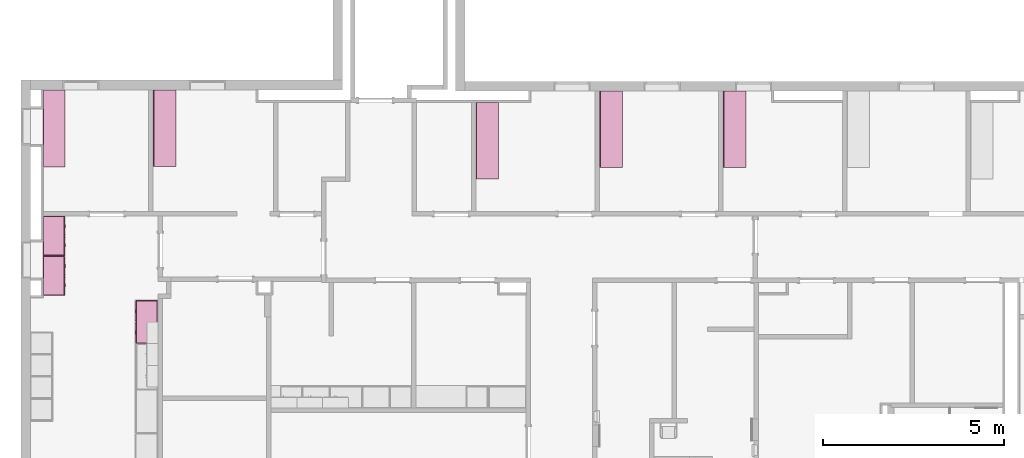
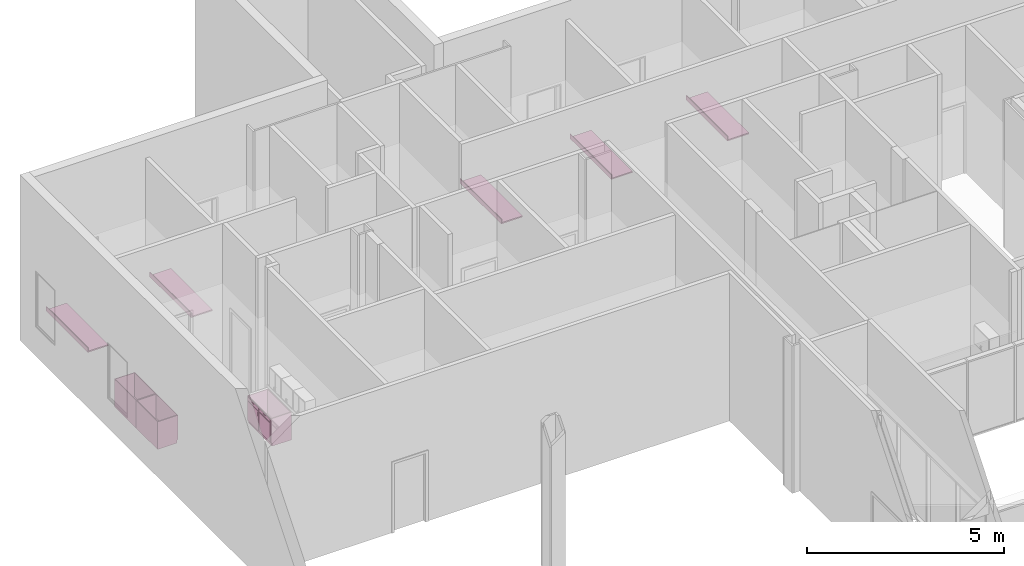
# One storey, part 42 of 45: 8 furnishings, 4 openings.
"""IFC2X3 building model written with IfcOpenShell, lengths in metres."""

from ifc_helpers import new_model, entity, si_unit, converted_unit, frame, frame_2d, origin, origin_2d_with_axis, place, context, project, spatial, polyline, circle_curve, parameter, trimmed, segment, composite_curve, rectangle, outline, extrude, face_set, surface_model, source, transform, mapped, type_object, type_shapes, element, save


model = new_model("IFC2X3")

# Units and contexts
model_context = context("Model", 3, precision=1e-09, world=origin())
plan_context = context("Plan", 3, precision=1e-09, world=origin())
ifc_project = project(units=[si_unit("LENGTHUNIT", "METRE"), si_unit("AREAUNIT", "SQUARE_METRE"), si_unit("VOLUMEUNIT", "CUBIC_METRE"), converted_unit("PLANEANGLEUNIT", "DEGREE", entity("IfcRatioMeasure", 0.01745329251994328), si_unit("PLANEANGLEUNIT", "RADIAN"), dimensions=[0, 0, 0, 0, 0, 0, 0]), si_unit("TIMEUNIT", "SECOND")], contexts=[model_context, plan_context])

# Site, building, storey, space
site_placement = place(None, origin())
site = spatial("IfcSite", under=ifc_project, at=site_placement, Name="Default", CompositionType="ELEMENT")
building_placement = place(site_placement, origin())
building = spatial("IfcBuilding", under=site, at=building_placement, CompositionType="ELEMENT")
storey_placement = place(building_placement, frame((0.0, 0.0, 4.570000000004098)))
storey = spatial("IfcBuildingStorey", under=building, at=storey_placement, Name="Second Floor", CompositionType="ELEMENT", Elevation=4.570000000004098)
space_1_placement = place(storey_placement, origin())
space_1 = spatial("IfcSpace", under=storey, at=space_1_placement, Name="2C17", CompositionType="ELEMENT", InteriorOrExteriorSpace="INTERNAL")

# Furnishing
furniture_type_1 = type_object("IfcFurnitureType", Name="1200mm", AssemblyPlace="NOTDEFINED")
shared_shape_1 = source(origin(), model_context, "Body", "SurfaceModel", [
    surface_model("IfcFaceBasedSurfaceModel", [(1.180949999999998, 0.04445000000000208, 0.86000000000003), (1.180949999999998, 0.04445000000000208, 0.09999999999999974), (0.01905000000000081, 0.04445000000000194, 0.09999999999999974), (0.01905000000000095, 0.04445000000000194, 0.86000000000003), (1.2, 0.02540000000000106, 0.8600000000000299), (0.0, 0.02540000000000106, 0.8600000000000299), (1.2, 0.02540000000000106, 0.09999999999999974), (0.0, 0.02540000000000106, 0.0999999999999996), (0.01905000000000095, 0.6063499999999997, 0.86000000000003), (0.01905000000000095, 0.6063499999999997, 0.09999999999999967), (0.01905000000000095, 0.06040000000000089, 0.09999999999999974), (0.0, 0.6254000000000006, 0.8600000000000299), (0.0, 0.6254000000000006, 0.0), (0.0, 0.06040000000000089, 0.0), (0.0, 0.06040000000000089, 0.09999999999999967), (1.180949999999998, 0.6063499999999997, 0.86000000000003), (1.180949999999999, 0.6063499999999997, 0.09999999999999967), (1.2, 0.6254000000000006, 0.8600000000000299), (1.2, 0.6254000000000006, 0.0), (1.180949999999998, 0.06040000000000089, 0.09999999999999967), (1.2, 0.06040000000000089, 0.09999999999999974), (1.2, 0.06040000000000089, 0.0), (0.3603250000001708, 0.0, 0.8155500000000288), (0.3603250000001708, 0.0, 0.8028500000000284), (0.258725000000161, 0.0, 0.8028500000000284), (0.258725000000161, 0.0, 0.8155500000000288), (0.9412750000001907, 0.0, 0.8155500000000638), (0.9412750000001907, 0.0, 0.8028500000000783), (0.8396750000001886, 0.0, 0.8028500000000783), (0.8396750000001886, 0.0, 0.8155500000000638), (0.5650750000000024, 0.0, 0.6822000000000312), (0.5650750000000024, 0.0, 0.5806000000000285), (0.5523750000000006, 0.0, 0.5806000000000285), (0.5523750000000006, 0.0, 0.6822000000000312), (0.6476249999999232, 0.0, 0.6822000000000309), (0.6476249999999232, 0.0, 0.5806000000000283), (0.6349249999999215, 0.0, 0.5806000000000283), (0.6349249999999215, 0.0, 0.6822000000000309), (0.3603250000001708, 0.01270000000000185, 0.8155500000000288), (0.3603250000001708, 0.01270000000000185, 0.8028500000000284), (0.2587250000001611, 0.01270000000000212, 0.8028500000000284), (0.2587250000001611, 0.01270000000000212, 0.8155500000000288), (0.9412750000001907, 0.01269999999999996, 0.8155500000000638), (0.9412750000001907, 0.01269999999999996, 0.8028500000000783), (0.8396750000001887, 0.01270000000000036, 0.8028500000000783), (0.8396750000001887, 0.01270000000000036, 0.8155500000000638), (0.5650750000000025, 0.01270000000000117, 0.6822000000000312), (0.5650750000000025, 0.01270000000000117, 0.5806000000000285), (0.5523750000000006, 0.01270000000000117, 0.5806000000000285), (0.5523750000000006, 0.01270000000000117, 0.6822000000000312), (0.6476249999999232, 0.0127000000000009, 0.6822000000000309), (0.6476249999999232, 0.0127000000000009, 0.5806000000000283), (0.6349249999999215, 0.0127000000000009, 0.5806000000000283), (0.6349249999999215, 0.0127000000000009, 0.6822000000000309), (0.5904749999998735, 0.01270000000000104, 0.8409500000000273), (0.5904749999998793, 0.01270000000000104, 0.7393500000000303), (0.01905000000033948, 0.0127000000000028, 0.7393500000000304), (0.01905000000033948, 0.0127000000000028, 0.8409500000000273), (1.180950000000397, 0.01269999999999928, 0.8409500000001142), (1.180950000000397, 0.01269999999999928, 0.7393500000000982), (0.6095249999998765, 0.01270000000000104, 0.7393500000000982), (0.6095249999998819, 0.01270000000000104, 0.8409500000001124), (0.5904749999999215, 0.01270000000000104, 0.7203000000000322), (0.5904749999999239, 0.01270000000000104, 0.1190499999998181), (0.01905000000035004, 0.0127000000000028, 0.1190499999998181), (0.01905000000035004, 0.0127000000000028, 0.7203000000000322), (1.180950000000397, 0.01269999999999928, 0.7203000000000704), (1.180950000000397, 0.01269999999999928, 0.1190499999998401), (0.6095249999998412, 0.01270000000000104, 0.1190499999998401), (0.6095249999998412, 0.01270000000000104, 0.7203000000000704), (0.5904749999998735, 0.02540000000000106, 0.8409500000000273), (0.5904749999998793, 0.02540000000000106, 0.7393500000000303), (0.01905000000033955, 0.02540000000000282, 0.7393500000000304), (0.01905000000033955, 0.02540000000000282, 0.8409500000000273), (1.180950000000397, 0.02539999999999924, 0.8409500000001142), (1.180950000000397, 0.02539999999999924, 0.7393500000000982), (0.6095249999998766, 0.025400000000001, 0.7393500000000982), (0.6095249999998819, 0.025400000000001, 0.8409500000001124), (0.5904749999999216, 0.02540000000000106, 0.7203000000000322), (0.5904749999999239, 0.02540000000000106, 0.1190499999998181), (0.01905000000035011, 0.02540000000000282, 0.1190499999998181), (0.01905000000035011, 0.02540000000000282, 0.7203000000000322), (1.180950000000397, 0.02539999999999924, 0.7203000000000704), (1.180950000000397, 0.02539999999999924, 0.1190499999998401), (0.6095249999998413, 0.025400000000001, 0.1190499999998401), (0.6095249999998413, 0.025400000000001, 0.7203000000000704), (1.180949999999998, 0.6063499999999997, 0.1190499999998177), (1.180949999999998, 0.04445000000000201, 0.1190499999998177), (0.01905000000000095, 0.04445000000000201, 0.1190499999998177), (0.01905000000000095, 0.6063499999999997, 0.1190499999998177), (1.180949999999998, 0.6063499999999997, 0.09999999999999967), (1.180949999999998, 0.04445000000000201, 0.09999999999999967), (0.01905000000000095, 0.04445000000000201, 0.09999999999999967)], [face_set([[[0, 1, 2, 3]], [[0, 4, 5, 3]], [[4, 6, 7, 5]], [[2, 1, 6, 7]], [[3, 8, 9, 10, 2]], [[5, 11, 8, 3]], [[7, 5, 11, 12, 13, 14]], [[2, 7, 14, 10]], [[8, 15, 16, 9]], [[11, 17, 15, 8]], [[12, 11, 17, 18]], [[1, 19, 16, 15, 0]], [[0, 15, 17, 4]], [[4, 6, 20, 21, 18, 17]], [[6, 1, 19, 20]], [[10, 9, 16, 19]], [[18, 21, 13, 12]], [[13, 14, 10, 19, 20, 21]]]), face_set([[[22, 23, 24, 25]], [[26, 27, 28, 29]], [[30, 31, 32, 33]], [[34, 35, 36, 37]], [[38, 39, 40, 41]], [[42, 43, 44, 45]], [[46, 47, 48, 49]], [[50, 51, 52, 53]], [[25, 41, 38, 22]], [[24, 40, 41, 25]], [[23, 24, 40, 39]], [[22, 23, 39, 38]], [[29, 45, 42, 26]], [[28, 44, 45, 29]], [[27, 28, 44, 43]], [[26, 27, 43, 42]], [[33, 49, 46, 30]], [[32, 48, 49, 33]], [[31, 32, 48, 47]], [[30, 31, 47, 46]], [[37, 53, 50, 34]], [[36, 52, 53, 37]], [[35, 36, 52, 51]], [[34, 35, 51, 50]]]), face_set([[[54, 55, 56, 57]], [[58, 59, 60, 61]], [[62, 63, 64, 65]], [[66, 67, 68, 69]], [[70, 71, 72, 73]], [[74, 75, 76, 77]], [[78, 79, 80, 81]], [[82, 83, 84, 85]], [[57, 73, 70, 54]], [[56, 57, 73, 72]], [[55, 56, 72, 71]], [[54, 55, 71, 70]], [[61, 77, 74, 58]], [[60, 76, 77, 61]], [[59, 60, 76, 75]], [[58, 59, 75, 74]], [[65, 81, 78, 62]], [[64, 65, 81, 80]], [[63, 64, 80, 79]], [[62, 63, 79, 78]], [[69, 85, 82, 66]], [[68, 84, 85, 69]], [[67, 68, 84, 83]], [[66, 67, 83, 82]]]), face_set([[[86, 87, 88, 89]], [[90, 91, 92, 9]], [[89, 86, 90, 9]], [[88, 89, 9, 92]], [[87, 91, 92, 88]], [[86, 87, 91, 90]]])]),
])
type_shapes(furniture_type_1, [shared_shape_1])
furnishing_1_placement = place(space_1_placement, frame((-44.23500000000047, 44.4370404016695, 0.0), z_axis=(0.0, 0.0, 1.0), x_axis=(0.0, -1.0, 0.0)))
element("IfcFurnishingElement", 1, at=furnishing_1_placement, inside=space_1, type_object=furniture_type_1, Name="M_Base Cabinet-Double Door & 2 Drawer:1200mm:1200mm", ObjectType="1200mm", context=model_context, shape_type="MappedRepresentation", body=[
    mapped(shared_shape_1, transform((0.0, 0.0, 0.0), scale=1.0)),
])

# Space
space_2_placement = place(storey_placement, origin())
space_2 = spatial("IfcSpace", under=storey, at=space_2_placement, Name="2C09", CompositionType="ELEMENT", InteriorOrExteriorSpace="INTERNAL")

# Furnishing, opening
furniture_type_2 = type_object("IfcFurnitureType", Name="600mm Depth", AssemblyPlace="NOTDEFINED")
shared_shape_2 = source(origin(), model_context, "Body", "SweptSolid", [
    extrude(outline(polyline([(-0.0605333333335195, -0.2146833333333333), (0.08106666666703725, -0.2146833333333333), (0.08106666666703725, -0.1956333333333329), (-0.02053333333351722, -0.1956333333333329), (-0.02053333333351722, 0.4103166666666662), (-0.0605333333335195, 0.4103166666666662), (-0.0605333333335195, -0.2146833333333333)])), frame((-1.200462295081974, -0.2146833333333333, 0.920533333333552), z_axis=(1.0, 0.0, 0.0), x_axis=(0.0, 0.0, 1.0)), (0.0, 0.0, 1.0), 2.10996063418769),
])
type_shapes(furniture_type_2, [shared_shape_2])
furnishing_2_placement = place(space_2_placement, frame((-34.82600000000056, 48.9849403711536, 0.0), z_axis=(0.0, 0.0, 1.0), x_axis=(0.0, 1.0, 0.0)))
furnishing_2 = element("IfcFurnishingElement", 2, at=furnishing_2_placement, inside=space_2, type_object=furniture_type_2, Name="M_Counter Top w Sink Hole:600mm Depth:600mm Depth", ObjectType="600mm Depth", context=model_context, shape_type="MappedRepresentation", body=[
    mapped(shared_shape_2, transform((0.0, 0.0, 0.0), scale=1.0)),
])
opening_1_placement = place(space_2_placement, frame((-34.82600000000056, 48.9849403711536, 0.0), z_axis=(0.0, 0.0, 1.0), x_axis=(0.0, 1.0, 0.0)))
element("IfcOpeningElement", 3, at=opening_1_placement, cuts=furnishing_2, Name="M_Counter Top w Sink Hole:600mm Depth:600mm Depth:1", ObjectType="Opening", context=model_context, shape_type="SweptSolid", body=[
    extrude(outline(composite_curve([segment(polyline([(-0.1397000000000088, -0.2017000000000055), (0.1396999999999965, -0.2017000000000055)]), True, "CONTINUOUS"), segment(trimmed(circle_curve(frame_2d((0.1396999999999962, -0.1508999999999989), x_axis=(1.0, 0.0)), 0.05080000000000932), [parameter(270.0000000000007)], [parameter(1.068666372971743e-12)], True, "PARAMETER"), True, "CONTINUOUS"), segment(polyline([(0.1905000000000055, -0.1508999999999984), (0.1905000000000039, 0.1509000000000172)]), True, "CONTINUOUS"), segment(trimmed(circle_curve(frame_2d((0.1397000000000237, 0.1509000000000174), x_axis=(1.0, 0.0)), 0.05079999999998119), [parameter(359.9999999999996)], [parameter(90.0000000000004)], True, "PARAMETER"), True, "CONTINUOUS"), segment(polyline([(0.1397000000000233, 0.2016999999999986), (-0.1397000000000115, 0.2016999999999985)]), True, "CONTINUOUS"), segment(trimmed(circle_curve(frame_2d((-0.1397000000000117, 0.1509000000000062), x_axis=(1.0, 0.0)), 0.0507999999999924), [parameter(90.00000000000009)], [parameter(179.9999999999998)], True, "PARAMETER"), True, "CONTINUOUS"), segment(polyline([(-0.1905000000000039, 0.150900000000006), (-0.1905000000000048, -0.1509000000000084)]), True, "CONTINUOUS"), segment(trimmed(circle_curve(frame_2d((-0.1397000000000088, -0.1509000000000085), x_axis=(1.0, 0.0)), 0.05079999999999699), [parameter(179.9999999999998)], [parameter(269.9999999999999)], True, "PARAMETER"), True, "CONTINUOUS")], self_intersect=False)), frame((-0.2890000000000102, 0.861511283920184, -3.670000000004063), z_axis=(0.0, 0.0, -1.0), x_axis=(0.0, -1.0, 0.0)), (0.0, 0.0, 1.0), 0.04000000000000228),
])

# Space
space_3_placement = place(storey_placement, origin())
space_3 = spatial("IfcSpace", under=storey, at=space_3_placement, Name="2C06", CompositionType="ELEMENT", InteriorOrExteriorSpace="INTERNAL")

# Furnishing, opening
furniture_type_3 = type_object("IfcFurnitureType", Name="600mm Depth", AssemblyPlace="NOTDEFINED")
type_shapes(furniture_type_3, [shared_shape_2])
furnishing_3_placement = place(space_3_placement, frame((-31.41600000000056, 49.2935016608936, 0.0), z_axis=(0.0, 0.0, 1.0), x_axis=(0.0, 1.0, 0.0)))
furnishing_3 = element("IfcFurnishingElement", 4, at=furnishing_3_placement, inside=space_3, type_object=furniture_type_3, Name="M_Counter Top w Sink Hole:600mm Depth:600mm Depth", ObjectType="600mm Depth", context=model_context, shape_type="MappedRepresentation", body=[
    mapped(shared_shape_2, transform((0.0, 0.0, 0.0), scale=1.0)),
])
opening_2_placement = place(space_3_placement, frame((-31.41600000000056, 49.2935016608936, 0.0), z_axis=(0.0, 0.0, 1.0), x_axis=(0.0, 1.0, 0.0)))
element("IfcOpeningElement", 5, at=opening_2_placement, cuts=furnishing_3, Name="M_Counter Top w Sink Hole:600mm Depth:600mm Depth:1", ObjectType="Opening", context=model_context, shape_type="SweptSolid", body=[
    extrude(outline(composite_curve([segment(polyline([(-0.1397000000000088, -0.2017000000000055), (0.1396999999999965, -0.2017000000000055)]), True, "CONTINUOUS"), segment(trimmed(circle_curve(frame_2d((0.1396999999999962, -0.1508999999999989), x_axis=(1.0, 0.0)), 0.05080000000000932), [parameter(270.0000000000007)], [parameter(1.068666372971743e-12)], True, "PARAMETER"), True, "CONTINUOUS"), segment(polyline([(0.1905000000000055, -0.1508999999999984), (0.1905000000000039, 0.1509000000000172)]), True, "CONTINUOUS"), segment(trimmed(circle_curve(frame_2d((0.1397000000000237, 0.1509000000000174), x_axis=(1.0, 0.0)), 0.05079999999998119), [parameter(359.9999999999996)], [parameter(90.0000000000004)], True, "PARAMETER"), True, "CONTINUOUS"), segment(polyline([(0.1397000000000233, 0.2016999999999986), (-0.1397000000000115, 0.2016999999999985)]), True, "CONTINUOUS"), segment(trimmed(circle_curve(frame_2d((-0.1397000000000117, 0.1509000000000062), x_axis=(1.0, 0.0)), 0.0507999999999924), [parameter(90.00000000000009)], [parameter(179.9999999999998)], True, "PARAMETER"), True, "CONTINUOUS"), segment(polyline([(-0.1905000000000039, 0.150900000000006), (-0.1905000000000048, -0.1509000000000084)]), True, "CONTINUOUS"), segment(trimmed(circle_curve(frame_2d((-0.1397000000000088, -0.1509000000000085), x_axis=(1.0, 0.0)), 0.05079999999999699), [parameter(179.9999999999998)], [parameter(269.9999999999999)], True, "PARAMETER"), True, "CONTINUOUS")], self_intersect=False)), frame((-0.2890000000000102, 0.861511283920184, -3.670000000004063), z_axis=(0.0, 0.0, -1.0), x_axis=(0.0, -1.0, 0.0)), (0.0, 0.0, 1.0), 0.04000000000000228),
])

# Space
space_4_placement = place(storey_placement, origin())
space_4 = spatial("IfcSpace", under=storey, at=space_4_placement, Name="2C14", CompositionType="ELEMENT", InteriorOrExteriorSpace="INTERNAL")

# Furnishing, opening
furniture_type_4 = type_object("IfcFurnitureType", Name="600mm Depth", AssemblyPlace="NOTDEFINED")
type_shapes(furniture_type_4, [shared_shape_2])
furnishing_4_placement = place(space_4_placement, frame((-43.73000000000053, 49.3279403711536, 0.0), z_axis=(0.0, 0.0, 1.0), x_axis=(0.0, 1.0, 0.0)))
furnishing_4 = element("IfcFurnishingElement", 6, at=furnishing_4_placement, inside=space_4, type_object=furniture_type_4, Name="M_Counter Top w Sink Hole:600mm Depth:600mm Depth", ObjectType="600mm Depth", context=model_context, shape_type="MappedRepresentation", body=[
    mapped(shared_shape_2, transform((0.0, 0.0, 0.0), scale=1.0)),
])
opening_3_placement = place(space_4_placement, frame((-43.73000000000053, 49.3279403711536, 0.0), z_axis=(0.0, 0.0, 1.0), x_axis=(0.0, 1.0, 0.0)))
element("IfcOpeningElement", 7, at=opening_3_placement, cuts=furnishing_4, Name="M_Counter Top w Sink Hole:600mm Depth:600mm Depth:1", ObjectType="Opening", context=model_context, shape_type="SweptSolid", body=[
    extrude(outline(composite_curve([segment(polyline([(-0.1397000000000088, -0.2017000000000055), (0.1396999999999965, -0.2017000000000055)]), True, "CONTINUOUS"), segment(trimmed(circle_curve(frame_2d((0.1396999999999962, -0.1508999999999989), x_axis=(1.0, 0.0)), 0.05080000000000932), [parameter(270.0000000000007)], [parameter(1.068666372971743e-12)], True, "PARAMETER"), True, "CONTINUOUS"), segment(polyline([(0.1905000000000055, -0.1508999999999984), (0.1905000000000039, 0.1509000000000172)]), True, "CONTINUOUS"), segment(trimmed(circle_curve(frame_2d((0.1397000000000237, 0.1509000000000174), x_axis=(1.0, 0.0)), 0.05079999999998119), [parameter(359.9999999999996)], [parameter(90.0000000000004)], True, "PARAMETER"), True, "CONTINUOUS"), segment(polyline([(0.1397000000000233, 0.2016999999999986), (-0.1397000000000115, 0.2016999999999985)]), True, "CONTINUOUS"), segment(trimmed(circle_curve(frame_2d((-0.1397000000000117, 0.1509000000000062), x_axis=(1.0, 0.0)), 0.0507999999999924), [parameter(90.00000000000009)], [parameter(179.9999999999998)], True, "PARAMETER"), True, "CONTINUOUS"), segment(polyline([(-0.1905000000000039, 0.150900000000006), (-0.1905000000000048, -0.1509000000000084)]), True, "CONTINUOUS"), segment(trimmed(circle_curve(frame_2d((-0.1397000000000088, -0.1509000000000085), x_axis=(1.0, 0.0)), 0.05079999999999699), [parameter(179.9999999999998)], [parameter(269.9999999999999)], True, "PARAMETER"), True, "CONTINUOUS")], self_intersect=False)), frame((-0.2890000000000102, 0.861511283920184, -3.670000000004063), z_axis=(0.0, 0.0, -1.0), x_axis=(0.0, -1.0, 0.0)), (0.0, 0.0, 1.0), 0.04000000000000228),
])

# Space
space_5_placement = place(storey_placement, origin())
space_5 = spatial("IfcSpace", under=storey, at=space_5_placement, Name="2C04", CompositionType="ELEMENT", InteriorOrExteriorSpace="INTERNAL")

# Furnishing, opening
furniture_type_5 = type_object("IfcFurnitureType", Name="600mm Depth", AssemblyPlace="NOTDEFINED")
type_shapes(furniture_type_5, [shared_shape_2])
furnishing_5_placement = place(space_5_placement, frame((-28.00600000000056, 49.29350166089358, 0.0), z_axis=(0.0, 0.0, 1.0), x_axis=(0.0, 1.0, 0.0)))
furnishing_5 = element("IfcFurnishingElement", 8, at=furnishing_5_placement, inside=space_5, type_object=furniture_type_5, Name="M_Counter Top w Sink Hole:600mm Depth:600mm Depth", ObjectType="600mm Depth", context=model_context, shape_type="MappedRepresentation", body=[
    mapped(shared_shape_2, transform((0.0, 0.0, 0.0), scale=1.0)),
])
opening_4_placement = place(space_5_placement, frame((-28.00600000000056, 49.29350166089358, 0.0), z_axis=(0.0, 0.0, 1.0), x_axis=(0.0, 1.0, 0.0)))
element("IfcOpeningElement", 9, at=opening_4_placement, cuts=furnishing_5, Name="M_Counter Top w Sink Hole:600mm Depth:600mm Depth:1", ObjectType="Opening", context=model_context, shape_type="SweptSolid", body=[
    extrude(outline(composite_curve([segment(polyline([(-0.1397000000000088, -0.2017000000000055), (0.1396999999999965, -0.2017000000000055)]), True, "CONTINUOUS"), segment(trimmed(circle_curve(frame_2d((0.1396999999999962, -0.1508999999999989), x_axis=(1.0, 0.0)), 0.05080000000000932), [parameter(270.0000000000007)], [parameter(1.068666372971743e-12)], True, "PARAMETER"), True, "CONTINUOUS"), segment(polyline([(0.1905000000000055, -0.1508999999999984), (0.1905000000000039, 0.1509000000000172)]), True, "CONTINUOUS"), segment(trimmed(circle_curve(frame_2d((0.1397000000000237, 0.1509000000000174), x_axis=(1.0, 0.0)), 0.05079999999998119), [parameter(359.9999999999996)], [parameter(90.0000000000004)], True, "PARAMETER"), True, "CONTINUOUS"), segment(polyline([(0.1397000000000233, 0.2016999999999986), (-0.1397000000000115, 0.2016999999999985)]), True, "CONTINUOUS"), segment(trimmed(circle_curve(frame_2d((-0.1397000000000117, 0.1509000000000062), x_axis=(1.0, 0.0)), 0.0507999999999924), [parameter(90.00000000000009)], [parameter(179.9999999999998)], True, "PARAMETER"), True, "CONTINUOUS"), segment(polyline([(-0.1905000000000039, 0.150900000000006), (-0.1905000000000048, -0.1509000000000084)]), True, "CONTINUOUS"), segment(trimmed(circle_curve(frame_2d((-0.1397000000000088, -0.1509000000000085), x_axis=(1.0, 0.0)), 0.05079999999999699), [parameter(179.9999999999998)], [parameter(269.9999999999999)], True, "PARAMETER"), True, "CONTINUOUS")], self_intersect=False)), frame((-0.2890000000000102, 0.861511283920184, -3.670000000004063), z_axis=(0.0, 0.0, -1.0), x_axis=(0.0, -1.0, 0.0)), (0.0, 0.0, 1.0), 0.04000000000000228),
])

# Furnishings
furniture_type_6 = type_object("IfcFurnitureType", Name="1100mm", AssemblyPlace="NOTDEFINED")
shared_shape_3 = source(origin(), model_context, "Body", "SurfaceModel", [
    surface_model("IfcFaceBasedSurfaceModel", [(1.080949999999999, 0.04445000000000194, 0.86000000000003), (1.080949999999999, 0.04445000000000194, 0.09999999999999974), (0.01905000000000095, 0.04445000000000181, 0.09999999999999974), (0.01905000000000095, 0.04445000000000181, 0.86000000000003), (1.1, 0.02540000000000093, 0.8600000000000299), (0.0, 0.02540000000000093, 0.8600000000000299), (1.1, 0.02540000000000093, 0.09999999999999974), (0.0, 0.025400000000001, 0.0999999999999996), (0.01905000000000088, 0.6063499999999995, 0.86000000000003), (0.01905000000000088, 0.6063499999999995, 0.09999999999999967), (0.01905000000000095, 0.06040000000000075, 0.09999999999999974), (0.0, 0.6254000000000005, 0.8600000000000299), (0.0, 0.6254000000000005, 0.0), (0.0, 0.06040000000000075, 0.0), (0.0, 0.06040000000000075, 0.09999999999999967), (1.080949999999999, 0.6063499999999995, 0.86000000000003), (1.080949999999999, 0.6063499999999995, 0.09999999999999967), (1.1, 0.6254000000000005, 0.8600000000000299), (1.1, 0.6254000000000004, 0.0), (1.080949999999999, 0.06040000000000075, 0.09999999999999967), (1.1, 0.06040000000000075, 0.09999999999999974), (1.1, 0.06040000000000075, 0.0), (0.3353250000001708, 0.0, 0.8155500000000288), (0.3353250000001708, 0.0, 0.8028500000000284), (0.2337250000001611, 0.0, 0.8028500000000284), (0.2337250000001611, 0.0, 0.8155500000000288), (0.866275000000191, 0.0, 0.8155500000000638), (0.866275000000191, 0.0, 0.8028500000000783), (0.7646750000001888, 0.0, 0.8028500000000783), (0.7646750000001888, 0.0, 0.8155500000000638), (0.5150750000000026, 0.0, 0.6822000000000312), (0.5150750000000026, 0.0, 0.5806000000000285), (0.5023750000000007, 0.0, 0.5806000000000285), (0.5023750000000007, 0.0, 0.6822000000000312), (0.5976249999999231, 0.0, 0.6822000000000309), (0.5976249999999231, 0.0, 0.5806000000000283), (0.5849249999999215, 0.0, 0.5806000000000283), (0.5849249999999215, 0.0, 0.6822000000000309), (0.3353250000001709, 0.01270000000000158, 0.8155500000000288), (0.3353250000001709, 0.01270000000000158, 0.8028500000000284), (0.2337250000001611, 0.01270000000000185, 0.8028500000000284), (0.2337250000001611, 0.01270000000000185, 0.8155500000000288), (0.8662750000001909, 0.01269999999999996, 0.8155500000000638), (0.8662750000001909, 0.01269999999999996, 0.8028500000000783), (0.7646750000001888, 0.01270000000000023, 0.8028500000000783), (0.7646750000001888, 0.01270000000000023, 0.8155500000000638), (0.5150750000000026, 0.01270000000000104, 0.6822000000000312), (0.5150750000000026, 0.01270000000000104, 0.5806000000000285), (0.5023750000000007, 0.01270000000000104, 0.5806000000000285), (0.5023750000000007, 0.01270000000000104, 0.6822000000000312), (0.5976249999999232, 0.01270000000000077, 0.6822000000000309), (0.5976249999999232, 0.01270000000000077, 0.5806000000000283), (0.5849249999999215, 0.01270000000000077, 0.5806000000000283), (0.5849249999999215, 0.01270000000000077, 0.6822000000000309), (0.5404749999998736, 0.0127000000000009, 0.8409500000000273), (0.5404749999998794, 0.0127000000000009, 0.7393500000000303), (0.01905000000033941, 0.01270000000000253, 0.7393500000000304), (0.01905000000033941, 0.01270000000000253, 0.8409500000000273), (1.080950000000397, 0.01269999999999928, 0.8409500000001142), (1.080950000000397, 0.01269999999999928, 0.7393500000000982), (0.5595249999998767, 0.0127000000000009, 0.7393500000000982), (0.5595249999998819, 0.0127000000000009, 0.8409500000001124), (0.5404749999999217, 0.0127000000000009, 0.7203000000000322), (0.540474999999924, 0.0127000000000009, 0.1190499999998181), (0.01905000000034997, 0.01270000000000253, 0.1190499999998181), (0.01905000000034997, 0.01270000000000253, 0.7203000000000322), (1.080950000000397, 0.01269999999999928, 0.7203000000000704), (1.080950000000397, 0.01269999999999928, 0.1190499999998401), (0.5595249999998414, 0.0127000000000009, 0.1190499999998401), (0.5595249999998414, 0.0127000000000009, 0.7203000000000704), (0.5404749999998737, 0.02540000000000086, 0.8409500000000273), (0.5404749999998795, 0.02540000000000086, 0.7393500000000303), (0.01905000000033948, 0.02540000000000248, 0.7393500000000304), (0.01905000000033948, 0.02540000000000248, 0.8409500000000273), (1.080950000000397, 0.02539999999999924, 0.8409500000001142), (1.080950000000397, 0.02539999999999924, 0.7393500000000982), (0.5595249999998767, 0.02540000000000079, 0.7393500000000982), (0.559524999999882, 0.02540000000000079, 0.8409500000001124), (0.5404749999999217, 0.02540000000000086, 0.7203000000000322), (0.5404749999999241, 0.02540000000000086, 0.1190499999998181), (0.01905000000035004, 0.02540000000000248, 0.1190499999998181), (0.01905000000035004, 0.02540000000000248, 0.7203000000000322), (1.080950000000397, 0.02539999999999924, 0.7203000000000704), (1.080950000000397, 0.02539999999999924, 0.1190499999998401), (0.5595249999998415, 0.02540000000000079, 0.1190499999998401), (0.5595249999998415, 0.02540000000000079, 0.7203000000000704), (1.080949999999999, 0.6063499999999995, 0.1190499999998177), (1.080949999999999, 0.04445000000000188, 0.1190499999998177), (0.01905000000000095, 0.04445000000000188, 0.1190499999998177), (0.01905000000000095, 0.6063499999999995, 0.1190499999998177), (1.080949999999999, 0.04445000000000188, 0.09999999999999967), (0.01905000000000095, 0.04445000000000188, 0.09999999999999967), (0.01905000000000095, 0.6063499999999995, 0.09999999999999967)], [face_set([[[0, 1, 2, 3]], [[0, 4, 5, 3]], [[4, 6, 7, 5]], [[2, 1, 6, 7]], [[3, 8, 9, 10, 2]], [[5, 11, 8, 3]], [[7, 5, 11, 12, 13, 14]], [[2, 7, 14, 10]], [[8, 15, 16, 9]], [[11, 17, 15, 8]], [[12, 11, 17, 18]], [[1, 19, 16, 15, 0]], [[0, 15, 17, 4]], [[4, 6, 20, 21, 18, 17]], [[6, 1, 19, 20]], [[10, 9, 16, 19]], [[18, 21, 13, 12]], [[13, 14, 10, 19, 20, 21]]]), face_set([[[22, 23, 24, 25]], [[26, 27, 28, 29]], [[30, 31, 32, 33]], [[34, 35, 36, 37]], [[38, 39, 40, 41]], [[42, 43, 44, 45]], [[46, 47, 48, 49]], [[50, 51, 52, 53]], [[25, 41, 38, 22]], [[24, 40, 41, 25]], [[23, 24, 40, 39]], [[22, 23, 39, 38]], [[29, 45, 42, 26]], [[28, 44, 45, 29]], [[27, 28, 44, 43]], [[26, 27, 43, 42]], [[33, 49, 46, 30]], [[32, 48, 49, 33]], [[31, 32, 48, 47]], [[30, 31, 47, 46]], [[37, 53, 50, 34]], [[36, 52, 53, 37]], [[35, 36, 52, 51]], [[34, 35, 51, 50]]]), face_set([[[54, 55, 56, 57]], [[58, 59, 60, 61]], [[62, 63, 64, 65]], [[66, 67, 68, 69]], [[70, 71, 72, 73]], [[74, 75, 76, 77]], [[78, 79, 80, 81]], [[82, 83, 84, 85]], [[57, 73, 70, 54]], [[56, 57, 73, 72]], [[55, 56, 72, 71]], [[54, 55, 71, 70]], [[61, 77, 74, 58]], [[60, 76, 77, 61]], [[59, 60, 76, 75]], [[58, 59, 75, 74]], [[65, 81, 78, 62]], [[64, 65, 81, 80]], [[63, 64, 80, 79]], [[62, 63, 79, 78]], [[69, 85, 82, 66]], [[68, 84, 85, 69]], [[67, 68, 84, 83]], [[66, 67, 83, 82]]]), face_set([[[86, 87, 88, 89]], [[16, 90, 91, 92]], [[89, 86, 16, 92]], [[88, 89, 92, 91]], [[87, 90, 91, 88]], [[86, 87, 90, 16]]])]),
])
type_shapes(furniture_type_6, [shared_shape_3])
for number, where, z_axis, x_axis in (
    (10, (-46.14460000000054, 44.56512298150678, 0.0), (0.0, 0.0, 1.0), (0.0, 1.0, 0.0)),
    (11, (-46.14460000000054, 45.66512298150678, 0.0), (0.0, 0.0, 1.0), (0.0, 1.0, 0.0)),
):
    element("IfcFurnishingElement", number, at=place(space_1_placement, frame(where, z_axis=z_axis, x_axis=x_axis)), inside=space_1, type_object=furniture_type_6, Name="M_Base Cabinet-Double Door & 2 Drawer:1100mm:1100mm", ObjectType="1100mm", context=model_context, shape_type="MappedRepresentation", body=[
        mapped(shared_shape_3, transform((0.0, 0.0, 0.0), scale=1.0)),
    ])

# Space
space_6_placement = place(storey_placement, origin())
space_6 = spatial("IfcSpace", under=storey, at=space_6_placement, Name="2C16", CompositionType="ELEMENT", InteriorOrExteriorSpace="INTERNAL")

# Furnishing
furniture_type_7 = type_object("IfcFurnitureType", Name="600mm Depth", AssemblyPlace="NOTDEFINED")
shared_shape_4 = source(origin(), model_context, "Body", "SweptSolid", [
    extrude(rectangle(XDim=0.01905000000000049, YDim=2.129539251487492, at=origin_2d_with_axis()), frame((-0.1356926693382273, -0.009525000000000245, 0.9000000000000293), z_axis=(0.0, 0.0, 1.0), x_axis=(0.0, -1.0, 0.0)), (0.0, 0.0, 1.0), 0.1016000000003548),
    extrude(rectangle(XDim=2.129539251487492, YDim=0.5999999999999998, at=origin_2d_with_axis()), frame((-0.1356926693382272, -0.2999999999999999, 0.8600000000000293), z_axis=(0.0, 0.0, 1.0), x_axis=(-1.0, 0.0, 0.0)), (0.0, 0.0, 1.0), 0.04000000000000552),
])
type_shapes(furniture_type_7, [shared_shape_4])
furnishing_6_placement = place(space_6_placement, frame((-46.77000000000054, 49.3083617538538, 0.0), z_axis=(0.0, 0.0, 1.0), x_axis=(0.0, 1.0, 0.0)))
element("IfcFurnishingElement", 12, at=furnishing_6_placement, inside=space_6, type_object=furniture_type_7, Name="M_Counter Top:600mm Depth:600mm Depth", ObjectType="600mm Depth", context=model_context, shape_type="MappedRepresentation", body=[
    mapped(shared_shape_4, transform((0.0, 0.0, 0.0), scale=1.0)),
])

save(model, "model.ifc")
